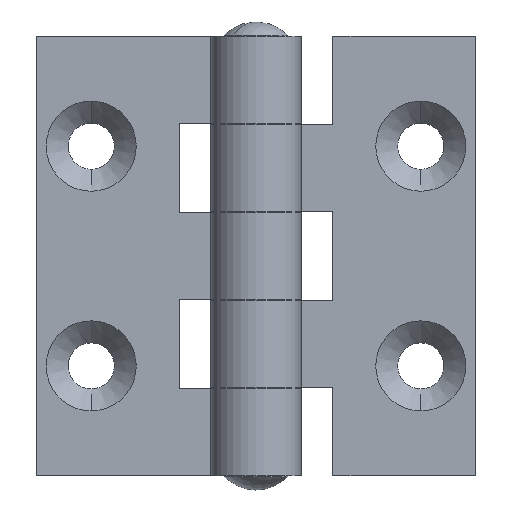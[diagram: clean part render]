
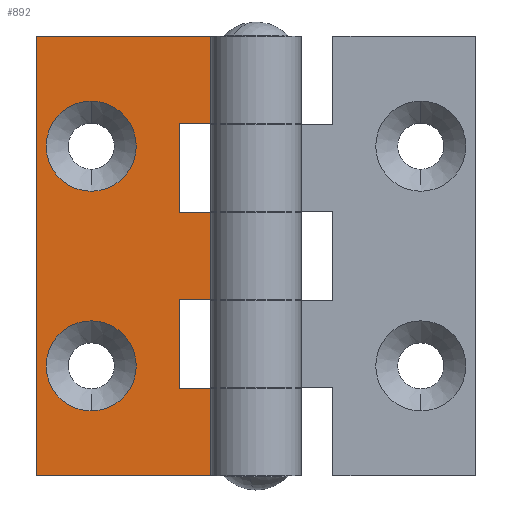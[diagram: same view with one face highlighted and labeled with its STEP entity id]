
A CAD part, top view. The second image highlights one B-rep face of the part: STEP entity #892.
In plain terms, the highlighted planar face has unit normal (0, 0, 1) as drawn and (0, -1, 0) by its records, which use the part's own axes.
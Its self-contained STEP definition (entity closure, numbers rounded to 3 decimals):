
#595 = VERTEX_POINT ( 'NONE', #1852 ) ;
#599 = VERTEX_POINT ( 'NONE', #1902 ) ;
#603 = VERTEX_POINT ( 'NONE', #1896 ) ;
#605 = EDGE_CURVE ( 'NONE', #599, #603, #1895, .T. ) ;
#633 = EDGE_CURVE ( 'NONE', #694, #698, #1968, .T. ) ;
#660 = VERTEX_POINT ( 'NONE', #1979 ) ;
#662 = EDGE_CURVE ( 'NONE', #595, #660, #1978, .T. ) ;
#671 = VERTEX_POINT ( 'NONE', #2022 ) ;
#680 = VERTEX_POINT ( 'NONE', #2004 ) ;
#682 = EDGE_CURVE ( 'NONE', #680, #683, #2063, .T. ) ;
#683 = VERTEX_POINT ( 'NONE', #2058 ) ;
#694 = VERTEX_POINT ( 'NONE', #2082 ) ;
#698 = VERTEX_POINT ( 'NONE', #2076 ) ;
#730 = EDGE_CURVE ( 'NONE', #671, #731, #2146, .T. ) ;
#731 = VERTEX_POINT ( 'NONE', #2141 ) ;
#829 = ORIENTED_EDGE ( 'NONE', *, *, #893, .T. ) ;
#830 = ORIENTED_EDGE ( 'NONE', *, *, #831, .T. ) ;
#831 = EDGE_CURVE ( 'NONE', #907, #908, #2350, .T. ) ;
#832 = ORIENTED_EDGE ( 'NONE', *, *, #833, .T. ) ;
#833 = EDGE_CURVE ( 'NONE', #908, #694, #2346, .T. ) ;
#834 = ORIENTED_EDGE ( 'NONE', *, *, #835, .F. ) ;
#835 = EDGE_CURVE ( 'NONE', #683, #680, #2342, .T. ) ;
#836 = ORIENTED_EDGE ( 'NONE', *, *, #682, .F. ) ;
#838 = ORIENTED_EDGE ( 'NONE', *, *, #633, .T. ) ;
#839 = ORIENTED_EDGE ( 'NONE', *, *, #840, .T. ) ;
#840 = EDGE_CURVE ( 'NONE', #698, #841, #2337, .T. ) ;
#841 = VERTEX_POINT ( 'NONE', #2333 ) ;
#879 = EDGE_CURVE ( 'NONE', #599, #886, #2451, .T. ) ;
#880 = ORIENTED_EDGE ( 'NONE', *, *, #605, .T. ) ;
#883 = ORIENTED_EDGE ( 'NONE', *, *, #879, .F. ) ;
#884 = ORIENTED_EDGE ( 'NONE', *, *, #885, .F. ) ;
#885 = EDGE_CURVE ( 'NONE', #886, #841, #2446, .T. ) ;
#886 = VERTEX_POINT ( 'NONE', #2437 ) ;
#887 = EDGE_LOOP ( 'NONE', ( #888, #910 ) ) ;
#888 = ORIENTED_EDGE ( 'NONE', *, *, #889, .F. ) ;
#889 = EDGE_CURVE ( 'NONE', #731, #671, #2435, .T. ) ;
#891 = EDGE_LOOP ( 'NONE', ( #834, #836 ) ) ;
#892 = ADVANCED_FACE ( 'NONE', ( #2424, #2423, #2422 ), #2429, .F. ) ;
#893 = EDGE_CURVE ( 'NONE', #603, #894, #2482, .T. ) ;
#894 = VERTEX_POINT ( 'NONE', #2478 ) ;
#895 = ORIENTED_EDGE ( 'NONE', *, *, #896, .T. ) ;
#896 = EDGE_CURVE ( 'NONE', #894, #897, #2477, .T. ) ;
#897 = VERTEX_POINT ( 'NONE', #2473 ) ;
#899 = ORIENTED_EDGE ( 'NONE', *, *, #900, .T. ) ;
#900 = EDGE_CURVE ( 'NONE', #897, #595, #2472, .T. ) ;
#901 = ORIENTED_EDGE ( 'NONE', *, *, #662, .T. ) ;
#905 = ORIENTED_EDGE ( 'NONE', *, *, #906, .T. ) ;
#906 = EDGE_CURVE ( 'NONE', #660, #907, #2458, .T. ) ;
#907 = VERTEX_POINT ( 'NONE', #2454 ) ;
#908 = VERTEX_POINT ( 'NONE', #2453 ) ;
#910 = ORIENTED_EDGE ( 'NONE', *, *, #730, .F. ) ;
#911 = EDGE_LOOP ( 'NONE', ( #829, #895, #899, #901, #905, #830, #832, #838, #839, #884, #883, #880 ) ) ;
#1852 = CARTESIAN_POINT ( 'NONE',  ( 40., -4., -7.95 ) ) ;
#1892 = DIRECTION ( 'NONE',  ( 0., 0., 1. ) ) ;
#1893 = VECTOR ( 'NONE', #1892, 1000. ) ;
#1894 = CARTESIAN_POINT ( 'NONE',  ( 40., -4., -40. ) ) ;
#1895 = LINE ( 'NONE', #1894, #1893 ) ;
#1896 = CARTESIAN_POINT ( 'NONE',  ( 40., -4., -24.1 ) ) ;
#1902 = CARTESIAN_POINT ( 'NONE',  ( 40., -4., -40. ) ) ;
#1965 = DIRECTION ( 'NONE',  ( 0., 0., 1. ) ) ;
#1966 = VECTOR ( 'NONE', #1965, 1000. ) ;
#1967 = CARTESIAN_POINT ( 'NONE',  ( 40., -4., -40. ) ) ;
#1968 = LINE ( 'NONE', #1967, #1966 ) ;
#1975 = DIRECTION ( 'NONE',  ( 0., 0., 1. ) ) ;
#1976 = VECTOR ( 'NONE', #1975, 1000. ) ;
#1977 = CARTESIAN_POINT ( 'NONE',  ( 40., -4., -40. ) ) ;
#1978 = LINE ( 'NONE', #1977, #1976 ) ;
#1979 = CARTESIAN_POINT ( 'NONE',  ( 40., -4., 7.95 ) ) ;
#2004 = CARTESIAN_POINT ( 'NONE',  ( 10., -4., 28.2 ) ) ;
#2022 = CARTESIAN_POINT ( 'NONE',  ( 10., -4., -11.8 ) ) ;
#2058 = CARTESIAN_POINT ( 'NONE',  ( 10., -4., 11.8 ) ) ;
#2059 = DIRECTION ( 'NONE',  ( 0., 0., -1. ) ) ;
#2060 = DIRECTION ( 'NONE',  ( 0., -1., 0. ) ) ;
#2061 = CARTESIAN_POINT ( 'NONE',  ( 10., -4., 20. ) ) ;
#2062 = AXIS2_PLACEMENT_3D ( 'NONE', #2061, #2060, #2059 ) ;
#2063 = CIRCLE ( 'NONE', #2062, 8.2 ) ;
#2076 = CARTESIAN_POINT ( 'NONE',  ( 40., -4., 40. ) ) ;
#2082 = CARTESIAN_POINT ( 'NONE',  ( 40., -4., 24.1 ) ) ;
#2141 = CARTESIAN_POINT ( 'NONE',  ( 10., -4., -28.2 ) ) ;
#2142 = DIRECTION ( 'NONE',  ( 0., 0., -1. ) ) ;
#2143 = DIRECTION ( 'NONE',  ( 0., -1., 0. ) ) ;
#2144 = CARTESIAN_POINT ( 'NONE',  ( 10., -4., -20. ) ) ;
#2145 = AXIS2_PLACEMENT_3D ( 'NONE', #2144, #2143, #2142 ) ;
#2146 = CIRCLE ( 'NONE', #2145, 8.2 ) ;
#2333 = CARTESIAN_POINT ( 'NONE',  ( 0., -4., 40. ) ) ;
#2334 = DIRECTION ( 'NONE',  ( -1., 0., 0. ) ) ;
#2335 = VECTOR ( 'NONE', #2334, 1000. ) ;
#2336 = CARTESIAN_POINT ( 'NONE',  ( 0., -4., 40. ) ) ;
#2337 = LINE ( 'NONE', #2336, #2335 ) ;
#2338 = DIRECTION ( 'NONE',  ( 0., 0., -1. ) ) ;
#2339 = DIRECTION ( 'NONE',  ( 0., -1., 0. ) ) ;
#2340 = CARTESIAN_POINT ( 'NONE',  ( 10., -4., 20. ) ) ;
#2341 = AXIS2_PLACEMENT_3D ( 'NONE', #2340, #2339, #2338 ) ;
#2342 = CIRCLE ( 'NONE', #2341, 8.2 ) ;
#2343 = DIRECTION ( 'NONE',  ( 1., 0., 0. ) ) ;
#2344 = VECTOR ( 'NONE', #2343, 1000. ) ;
#2345 = CARTESIAN_POINT ( 'NONE',  ( 0., -4., 24.1 ) ) ;
#2346 = LINE ( 'NONE', #2345, #2344 ) ;
#2347 = DIRECTION ( 'NONE',  ( 0., 0., 1. ) ) ;
#2348 = VECTOR ( 'NONE', #2347, 1000. ) ;
#2349 = CARTESIAN_POINT ( 'NONE',  ( 26., -4., -40. ) ) ;
#2350 = LINE ( 'NONE', #2349, #2348 ) ;
#2418 = DIRECTION ( 'NONE',  ( 0., 0., 1. ) ) ;
#2419 = DIRECTION ( 'NONE',  ( 0., 1., 0. ) ) ;
#2420 = CARTESIAN_POINT ( 'NONE',  ( 0., -4., -40. ) ) ;
#2421 = AXIS2_PLACEMENT_3D ( 'NONE', #2420, #2419, #2418 ) ;
#2422 = FACE_OUTER_BOUND ( 'NONE', #911, .T. ) ;
#2423 = FACE_BOUND ( 'NONE', #887, .T. ) ;
#2424 = FACE_BOUND ( 'NONE', #891, .T. ) ;
#2429 = PLANE ( 'NONE',  #2421 ) ;
#2431 = DIRECTION ( 'NONE',  ( 0., 0., -1. ) ) ;
#2432 = DIRECTION ( 'NONE',  ( 0., -1., 0. ) ) ;
#2433 = CARTESIAN_POINT ( 'NONE',  ( 10., -4., -20. ) ) ;
#2434 = AXIS2_PLACEMENT_3D ( 'NONE', #2433, #2432, #2431 ) ;
#2435 = CIRCLE ( 'NONE', #2434, 8.2 ) ;
#2437 = CARTESIAN_POINT ( 'NONE',  ( 0., -4., -40. ) ) ;
#2438 = DIRECTION ( 'NONE',  ( 0., 0., 1. ) ) ;
#2439 = VECTOR ( 'NONE', #2438, 1000. ) ;
#2440 = CARTESIAN_POINT ( 'NONE',  ( 0., -4., -40. ) ) ;
#2446 = LINE ( 'NONE', #2440, #2439 ) ;
#2448 = DIRECTION ( 'NONE',  ( -1., 0., 0. ) ) ;
#2449 = VECTOR ( 'NONE', #2448, 1000. ) ;
#2450 = CARTESIAN_POINT ( 'NONE',  ( 0., -4., -40. ) ) ;
#2451 = LINE ( 'NONE', #2450, #2449 ) ;
#2453 = CARTESIAN_POINT ( 'NONE',  ( 26., -4., 24.1 ) ) ;
#2454 = CARTESIAN_POINT ( 'NONE',  ( 26., -4., 7.95 ) ) ;
#2455 = DIRECTION ( 'NONE',  ( -1., 0., 0. ) ) ;
#2456 = VECTOR ( 'NONE', #2455, 1000. ) ;
#2457 = CARTESIAN_POINT ( 'NONE',  ( 0., -4., 7.95 ) ) ;
#2458 = LINE ( 'NONE', #2457, #2456 ) ;
#2469 = DIRECTION ( 'NONE',  ( 1., 0., 0. ) ) ;
#2470 = VECTOR ( 'NONE', #2469, 1000. ) ;
#2471 = CARTESIAN_POINT ( 'NONE',  ( 0., -4., -7.95 ) ) ;
#2472 = LINE ( 'NONE', #2471, #2470 ) ;
#2473 = CARTESIAN_POINT ( 'NONE',  ( 26., -4., -7.95 ) ) ;
#2474 = DIRECTION ( 'NONE',  ( 0., 0., 1. ) ) ;
#2475 = VECTOR ( 'NONE', #2474, 1000. ) ;
#2476 = CARTESIAN_POINT ( 'NONE',  ( 26., -4., -40. ) ) ;
#2477 = LINE ( 'NONE', #2476, #2475 ) ;
#2478 = CARTESIAN_POINT ( 'NONE',  ( 26., -4., -24.1 ) ) ;
#2479 = DIRECTION ( 'NONE',  ( -1., 0., 0. ) ) ;
#2480 = VECTOR ( 'NONE', #2479, 1000. ) ;
#2481 = CARTESIAN_POINT ( 'NONE',  ( 0., -4., -24.1 ) ) ;
#2482 = LINE ( 'NONE', #2481, #2480 ) ;
